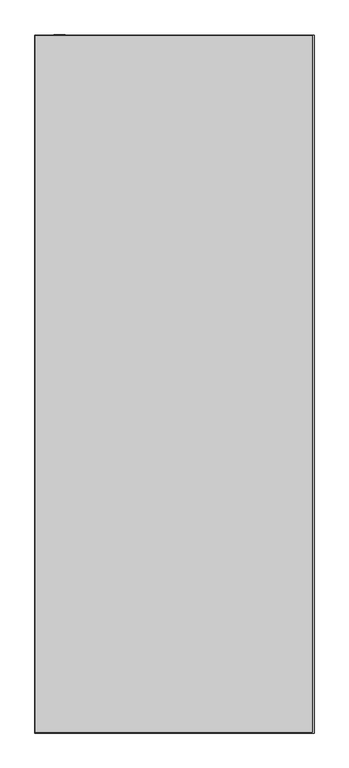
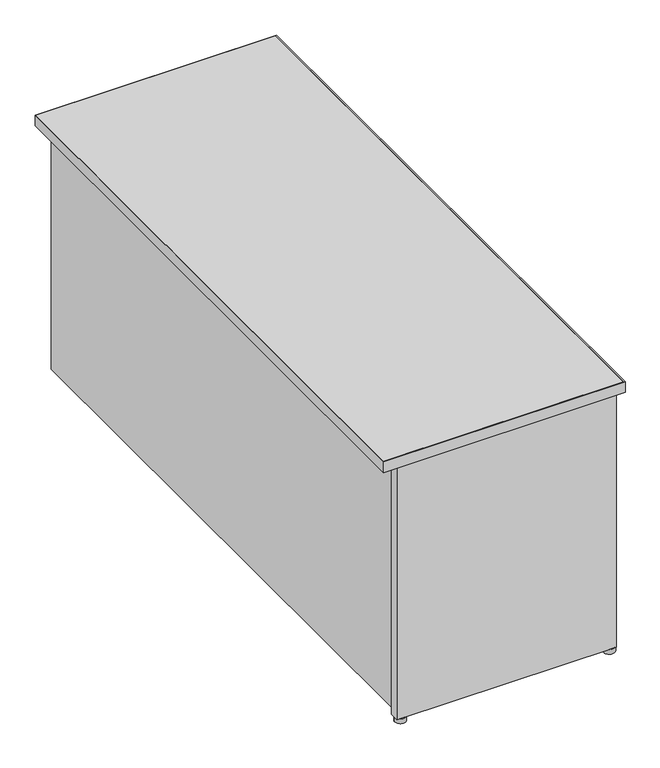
"""IFC4 building model written with IfcOpenShell, lengths in millimetres: furniture geometry, Steelcase - Kick Freestanding - Desk - Return - Full Height Modesty Panel : 24D x 60W - Left."""

from ifc_helpers import new_model, si_unit, point, frame, frame_2d, origin, origin_with_axes, place, context, project, spatial, polyline, circle_curve, trimmed, segment, composite_curve, outline, extrude, source, transform, mapped, element, save


def furniture_836e00b5(model_context):
    return source(origin(), model_context, "Body", "SweptSolid", [
        extrude(outline(composite_curve([segment(trimmed(circle_curve(frame_2d((2220.2474425, -2045.4145152)), 13.97), [point((2206.2774425, -2045.4145152))], [point((2234.2174425, -2045.4145152))], False, "CARTESIAN"), True, "CONTINUOUS"), segment(trimmed(circle_curve(frame_2d((2220.2474425, -2045.4145152)), 13.97), [point((2234.2174425, -2045.4145152))], [point((2206.2774425, -2045.4145152))], False, "CARTESIAN"), True, "CONTINUOUS")], self_intersect=False)), origin_with_axes(), (0.0, 0.0, 1.0), 12.7),
        extrude(outline(composite_curve([segment(trimmed(circle_curve(frame_2d((2748.0594425, -2045.4145152)), 13.97), [point((2734.0894425, -2045.4145152))], [point((2762.0294425, -2045.4145152))], False, "CARTESIAN"), True, "CONTINUOUS"), segment(trimmed(circle_curve(frame_2d((2748.0594425, -2045.4145152)), 13.97), [point((2762.0294425, -2045.4145152))], [point((2734.0894425, -2045.4145152))], False, "CARTESIAN"), True, "CONTINUOUS")], self_intersect=False)), origin_with_axes(), (0.0, 0.0, 1.0), 12.7),
        extrude(outline(polyline([(2205.0074425, -2032.8669152), (2328.2736437, -2032.8669152), (2328.2736437, -2055.2951136), (2427.9940467, -2055.2951136), (2427.9940467, -2032.8669041), (2536.7314502, -2032.8669041), (2536.7314502, -2055.2951136), (2636.4518532, -2055.2951136), (2636.4518532, -2032.8669041), (2759.4894376, -2032.8669041), (2759.4894376, -2057.3525098), (2205.0074425, -2057.3525098), (2205.0074425, -2032.8669152)])), frame((0.0, 0.0, 12.7), z_axis=(0.0, 0.0, 1.0), x_axis=(1.0, 0.0, 0.0)), (0.0, 0.0, 1.0), 682.244),
        extrude(outline(polyline([(2230.4074426, -546.0525152), (2230.4074426, -2032.8669152), (2205.0074425, -2032.8669152), (2205.0074425, -546.0525152), (2230.4074426, -546.0525152)])), frame((0.0, 0.0, 31.242), z_axis=(0.0, 0.0, 1.0), x_axis=(1.0, 0.0, 0.0)), (0.0, 0.0, 1.0), 663.702),
        extrude(outline(polyline([(2769.2176592, -548.0845152), (2769.2176592, -2069.5445152), (2164.8500425, -2069.5445152), (2164.8500425, -548.0845152), (2769.2176592, -548.0845152)])), frame((0.0, 0.0, 694.944), z_axis=(0.0, 0.0, 1.0), x_axis=(1.0, 0.0, 0.0)), (0.0, 0.0, 1.0), 28.956),
        extrude(outline(polyline([(2773.4594425, -546.8145152), (2773.4594425, -2070.8145152), (2163.8594425, -2070.8145152), (2163.8594425, -546.8145152), (2773.4594425, -546.8145152)]), holes=[polyline([(2769.2176592, -548.0845152), (2164.8500425, -548.0845152), (2164.8500425, -2069.5445152), (2769.2176592, -2069.5445152), (2769.2176592, -548.0845152)])]), frame((0.0, 0.0, 694.944), z_axis=(0.0, 0.0, 1.0), x_axis=(1.0, 0.0, 0.0)), (0.0, 0.0, 1.0), 28.956),
    ])


if __name__ == "__main__":
    model = new_model("IFC4")
    model_context = context("Model", 3, world=origin())
    ifc_project = project(units=[si_unit("LENGTHUNIT", "METRE", prefix="MILLI")], contexts=[model_context])
    site = spatial("IfcSite", under=ifc_project)
    building = spatial("IfcBuilding", under=site)
    placement = place(None, origin())
    furniture_shape = furniture_836e00b5(model_context)
    element("IfcFurniture", 1, ObjectType="Steelcase - Kick Freestanding - Desk - Return - Full Height Modesty Panel : 24D x 60W - Left", at=placement, inside=building, context=model_context, shape_type="MappedRepresentation", body=[
        mapped(furniture_shape, transform((0.0, 0.0, 0.0), x_axis=(1.0, 0.0, 0.0), y_axis=(0.0, 1.0, 0.0), z_axis=(0.0, 0.0, 1.0))),
    ])
    save(model, "model.ifc")
